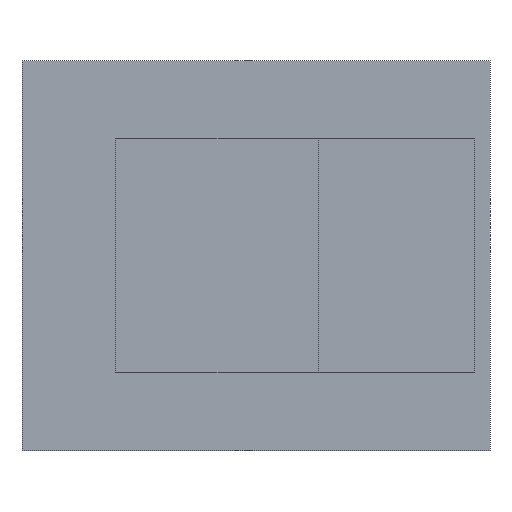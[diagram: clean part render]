
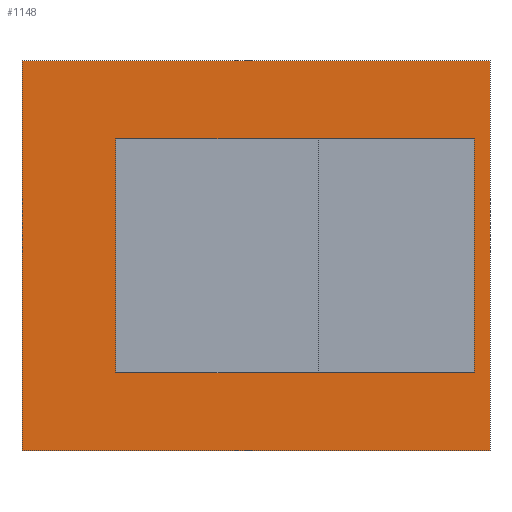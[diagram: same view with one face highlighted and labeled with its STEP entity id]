
A CAD part, front view. The second image highlights one B-rep face of the part: STEP entity #1148.
In plain terms, the highlighted planar face has unit normal (0, -1, 0).
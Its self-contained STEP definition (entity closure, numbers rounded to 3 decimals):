
#851 = PLANE('',#852);
#852 = AXIS2_PLACEMENT_3D('',#853,#854,#855);
#853 = CARTESIAN_POINT('',(-1.5,-103.,38.5));
#854 = DIRECTION('',(1.,0.,-0.));
#855 = DIRECTION('',(0.,0.,1.));
#882 = PLANE('',#883);
#883 = AXIS2_PLACEMENT_3D('',#884,#885,#886);
#884 = CARTESIAN_POINT('',(-1.5,-103.,41.5));
#885 = DIRECTION('',(0.,0.,1.));
#886 = DIRECTION('',(1.,0.,-0.));
#911 = PLANE('',#912);
#912 = AXIS2_PLACEMENT_3D('',#913,#914,#915);
#913 = CARTESIAN_POINT('',(1.5,-103.,38.5));
#914 = DIRECTION('',(1.,0.,-0.));
#915 = DIRECTION('',(0.,0.,1.));
#944 = PLANE('',#945);
#945 = AXIS2_PLACEMENT_3D('',#946,#947,#948);
#946 = CARTESIAN_POINT('',(-1.5,-103.,38.5));
#947 = DIRECTION('',(0.,0.,1.));
#948 = DIRECTION('',(1.,0.,-0.));
#960 = VERTEX_POINT('',#961);
#961 = CARTESIAN_POINT('',(-1.5,-93.,41.5));
#984 = VERTEX_POINT('',#985);
#985 = CARTESIAN_POINT('',(-1.5,-93.,38.5));
#1006 = EDGE_CURVE('',#960,#984,#1007,.T.);
#1007 = SURFACE_CURVE('',#1008,(#1012,#1018),.PCURVE_S1.);
#1008 = LINE('',#1009,#1010);
#1009 = CARTESIAN_POINT('',(-1.5,-93.,38.));
#1010 = VECTOR('',#1011,1.);
#1011 = DIRECTION('',(-0.,0.,-1.));
#1012 = PCURVE('',#851,#1013);
#1013 = DEFINITIONAL_REPRESENTATION('',(#1014),#1017);
#1014 = B_SPLINE_CURVE_WITH_KNOTS('',1,(#1015,#1016),.UNSPECIFIED.,.F.,
  .F.,(2,2),(-3.5,-0.5),.PIECEWISE_BEZIER_KNOTS.);
#1015 = CARTESIAN_POINT('',(3.,-10.));
#1016 = CARTESIAN_POINT('',(0.,-10.));
#1017 = ( GEOMETRIC_REPRESENTATION_CONTEXT(2) 
PARAMETRIC_REPRESENTATION_CONTEXT() REPRESENTATION_CONTEXT('2D SPACE',''
  ) );
#1018 = PCURVE('',#1019,#1024);
#1019 = PLANE('',#1020);
#1020 = AXIS2_PLACEMENT_3D('',#1021,#1022,#1023);
#1021 = CARTESIAN_POINT('',(-3.,-93.,37.5));
#1022 = DIRECTION('',(-0.,1.,0.));
#1023 = DIRECTION('',(0.,0.,1.));
#1024 = DEFINITIONAL_REPRESENTATION('',(#1025),#1028);
#1025 = B_SPLINE_CURVE_WITH_KNOTS('',1,(#1026,#1027),.UNSPECIFIED.,.F.,
  .F.,(2,2),(-3.5,-0.5),.PIECEWISE_BEZIER_KNOTS.);
#1026 = CARTESIAN_POINT('',(4.,1.5));
#1027 = CARTESIAN_POINT('',(1.,1.5));
#1028 = ( GEOMETRIC_REPRESENTATION_CONTEXT(2) 
PARAMETRIC_REPRESENTATION_CONTEXT() REPRESENTATION_CONTEXT('2D SPACE',''
  ) );
#1036 = VERTEX_POINT('',#1037);
#1037 = CARTESIAN_POINT('',(1.5,-93.,41.5));
#1058 = EDGE_CURVE('',#960,#1036,#1059,.T.);
#1059 = SURFACE_CURVE('',#1060,(#1064,#1070),.PCURVE_S1.);
#1060 = LINE('',#1061,#1062);
#1061 = CARTESIAN_POINT('',(-2.25,-93.,41.5));
#1062 = VECTOR('',#1063,1.);
#1063 = DIRECTION('',(1.,0.,-0.));
#1064 = PCURVE('',#882,#1065);
#1065 = DEFINITIONAL_REPRESENTATION('',(#1066),#1069);
#1066 = B_SPLINE_CURVE_WITH_KNOTS('',1,(#1067,#1068),.UNSPECIFIED.,.F.,
  .F.,(2,2),(0.75,3.75),.PIECEWISE_BEZIER_KNOTS.);
#1067 = CARTESIAN_POINT('',(0.,10.));
#1068 = CARTESIAN_POINT('',(3.,10.));
#1069 = ( GEOMETRIC_REPRESENTATION_CONTEXT(2) 
PARAMETRIC_REPRESENTATION_CONTEXT() REPRESENTATION_CONTEXT('2D SPACE',''
  ) );
#1070 = PCURVE('',#1019,#1071);
#1071 = DEFINITIONAL_REPRESENTATION('',(#1072),#1075);
#1072 = B_SPLINE_CURVE_WITH_KNOTS('',1,(#1073,#1074),.UNSPECIFIED.,.F.,
  .F.,(2,2),(0.75,3.75),.PIECEWISE_BEZIER_KNOTS.);
#1073 = CARTESIAN_POINT('',(4.,1.5));
#1074 = CARTESIAN_POINT('',(4.,4.5));
#1075 = ( GEOMETRIC_REPRESENTATION_CONTEXT(2) 
PARAMETRIC_REPRESENTATION_CONTEXT() REPRESENTATION_CONTEXT('2D SPACE',''
  ) );
#1083 = VERTEX_POINT('',#1084);
#1084 = CARTESIAN_POINT('',(1.5,-93.,38.5));
#1105 = EDGE_CURVE('',#1036,#1083,#1106,.T.);
#1106 = SURFACE_CURVE('',#1107,(#1111,#1117),.PCURVE_S1.);
#1107 = LINE('',#1108,#1109);
#1108 = CARTESIAN_POINT('',(1.5,-93.,38.));
#1109 = VECTOR('',#1110,1.);
#1110 = DIRECTION('',(-0.,0.,-1.));
#1111 = PCURVE('',#911,#1112);
#1112 = DEFINITIONAL_REPRESENTATION('',(#1113),#1116);
#1113 = B_SPLINE_CURVE_WITH_KNOTS('',1,(#1114,#1115),.UNSPECIFIED.,.F.,
  .F.,(2,2),(-3.5,-0.5),.PIECEWISE_BEZIER_KNOTS.);
#1114 = CARTESIAN_POINT('',(3.,-10.));
#1115 = CARTESIAN_POINT('',(0.,-10.));
#1116 = ( GEOMETRIC_REPRESENTATION_CONTEXT(2) 
PARAMETRIC_REPRESENTATION_CONTEXT() REPRESENTATION_CONTEXT('2D SPACE',''
  ) );
#1117 = PCURVE('',#1019,#1118);
#1118 = DEFINITIONAL_REPRESENTATION('',(#1119),#1122);
#1119 = B_SPLINE_CURVE_WITH_KNOTS('',1,(#1120,#1121),.UNSPECIFIED.,.F.,
  .F.,(2,2),(-3.5,-0.5),.PIECEWISE_BEZIER_KNOTS.);
#1120 = CARTESIAN_POINT('',(4.,4.5));
#1121 = CARTESIAN_POINT('',(1.,4.5));
#1122 = ( GEOMETRIC_REPRESENTATION_CONTEXT(2) 
PARAMETRIC_REPRESENTATION_CONTEXT() REPRESENTATION_CONTEXT('2D SPACE',''
  ) );
#1130 = EDGE_CURVE('',#984,#1083,#1131,.T.);
#1131 = SURFACE_CURVE('',#1132,(#1136,#1142),.PCURVE_S1.);
#1132 = LINE('',#1133,#1134);
#1133 = CARTESIAN_POINT('',(-2.25,-93.,38.5));
#1134 = VECTOR('',#1135,1.);
#1135 = DIRECTION('',(1.,0.,-0.));
#1136 = PCURVE('',#944,#1137);
#1137 = DEFINITIONAL_REPRESENTATION('',(#1138),#1141);
#1138 = B_SPLINE_CURVE_WITH_KNOTS('',1,(#1139,#1140),.UNSPECIFIED.,.F.,
  .F.,(2,2),(0.75,3.75),.PIECEWISE_BEZIER_KNOTS.);
#1139 = CARTESIAN_POINT('',(0.,10.));
#1140 = CARTESIAN_POINT('',(3.,10.));
#1141 = ( GEOMETRIC_REPRESENTATION_CONTEXT(2) 
PARAMETRIC_REPRESENTATION_CONTEXT() REPRESENTATION_CONTEXT('2D SPACE',''
  ) );
#1142 = PCURVE('',#1019,#1143);
#1143 = DEFINITIONAL_REPRESENTATION('',(#1144),#1147);
#1144 = B_SPLINE_CURVE_WITH_KNOTS('',1,(#1145,#1146),.UNSPECIFIED.,.F.,
  .F.,(2,2),(0.75,3.75),.PIECEWISE_BEZIER_KNOTS.);
#1145 = CARTESIAN_POINT('',(1.,1.5));
#1146 = CARTESIAN_POINT('',(1.,4.5));
#1147 = ( GEOMETRIC_REPRESENTATION_CONTEXT(2) 
PARAMETRIC_REPRESENTATION_CONTEXT() REPRESENTATION_CONTEXT('2D SPACE',''
  ) );
#1148 = ADVANCED_FACE('',(#1149,#1263),#1019,.F.);
#1149 = FACE_BOUND('',#1150,.F.);
#1150 = EDGE_LOOP('',(#1151,#1181,#1209,#1237));
#1151 = ORIENTED_EDGE('',*,*,#1152,.F.);
#1152 = EDGE_CURVE('',#1153,#1155,#1157,.T.);
#1153 = VERTEX_POINT('',#1154);
#1154 = CARTESIAN_POINT('',(-3.,-93.,37.5));
#1155 = VERTEX_POINT('',#1156);
#1156 = CARTESIAN_POINT('',(3.,-93.,37.5));
#1157 = SURFACE_CURVE('',#1158,(#1162,#1169),.PCURVE_S1.);
#1158 = LINE('',#1159,#1160);
#1159 = CARTESIAN_POINT('',(-3.,-93.,37.5));
#1160 = VECTOR('',#1161,1.);
#1161 = DIRECTION('',(1.,0.,-0.));
#1162 = PCURVE('',#1019,#1163);
#1163 = DEFINITIONAL_REPRESENTATION('',(#1164),#1168);
#1164 = LINE('',#1165,#1166);
#1165 = CARTESIAN_POINT('',(0.,0.));
#1166 = VECTOR('',#1167,1.);
#1167 = DIRECTION('',(0.,1.));
#1168 = ( GEOMETRIC_REPRESENTATION_CONTEXT(2) 
PARAMETRIC_REPRESENTATION_CONTEXT() REPRESENTATION_CONTEXT('2D SPACE',''
  ) );
#1169 = PCURVE('',#1170,#1175);
#1170 = PLANE('',#1171);
#1171 = AXIS2_PLACEMENT_3D('',#1172,#1173,#1174);
#1172 = CARTESIAN_POINT('',(-3.,-93.,37.5));
#1173 = DIRECTION('',(0.,0.,1.));
#1174 = DIRECTION('',(1.,0.,-0.));
#1175 = DEFINITIONAL_REPRESENTATION('',(#1176),#1180);
#1176 = LINE('',#1177,#1178);
#1177 = CARTESIAN_POINT('',(0.,0.));
#1178 = VECTOR('',#1179,1.);
#1179 = DIRECTION('',(1.,0.));
#1180 = ( GEOMETRIC_REPRESENTATION_CONTEXT(2) 
PARAMETRIC_REPRESENTATION_CONTEXT() REPRESENTATION_CONTEXT('2D SPACE',''
  ) );
#1181 = ORIENTED_EDGE('',*,*,#1182,.T.);
#1182 = EDGE_CURVE('',#1153,#1183,#1185,.T.);
#1183 = VERTEX_POINT('',#1184);
#1184 = CARTESIAN_POINT('',(-3.,-93.,42.5));
#1185 = SURFACE_CURVE('',#1186,(#1190,#1197),.PCURVE_S1.);
#1186 = LINE('',#1187,#1188);
#1187 = CARTESIAN_POINT('',(-3.,-93.,37.5));
#1188 = VECTOR('',#1189,1.);
#1189 = DIRECTION('',(0.,0.,1.));
#1190 = PCURVE('',#1019,#1191);
#1191 = DEFINITIONAL_REPRESENTATION('',(#1192),#1196);
#1192 = LINE('',#1193,#1194);
#1193 = CARTESIAN_POINT('',(0.,0.));
#1194 = VECTOR('',#1195,1.);
#1195 = DIRECTION('',(1.,0.));
#1196 = ( GEOMETRIC_REPRESENTATION_CONTEXT(2) 
PARAMETRIC_REPRESENTATION_CONTEXT() REPRESENTATION_CONTEXT('2D SPACE',''
  ) );
#1197 = PCURVE('',#1198,#1203);
#1198 = PLANE('',#1199);
#1199 = AXIS2_PLACEMENT_3D('',#1200,#1201,#1202);
#1200 = CARTESIAN_POINT('',(-3.,-93.,37.5));
#1201 = DIRECTION('',(1.,0.,-0.));
#1202 = DIRECTION('',(0.,0.,1.));
#1203 = DEFINITIONAL_REPRESENTATION('',(#1204),#1208);
#1204 = LINE('',#1205,#1206);
#1205 = CARTESIAN_POINT('',(0.,0.));
#1206 = VECTOR('',#1207,1.);
#1207 = DIRECTION('',(1.,0.));
#1208 = ( GEOMETRIC_REPRESENTATION_CONTEXT(2) 
PARAMETRIC_REPRESENTATION_CONTEXT() REPRESENTATION_CONTEXT('2D SPACE',''
  ) );
#1209 = ORIENTED_EDGE('',*,*,#1210,.T.);
#1210 = EDGE_CURVE('',#1183,#1211,#1213,.T.);
#1211 = VERTEX_POINT('',#1212);
#1212 = CARTESIAN_POINT('',(3.,-93.,42.5));
#1213 = SURFACE_CURVE('',#1214,(#1218,#1225),.PCURVE_S1.);
#1214 = LINE('',#1215,#1216);
#1215 = CARTESIAN_POINT('',(-3.,-93.,42.5));
#1216 = VECTOR('',#1217,1.);
#1217 = DIRECTION('',(1.,0.,-0.));
#1218 = PCURVE('',#1019,#1219);
#1219 = DEFINITIONAL_REPRESENTATION('',(#1220),#1224);
#1220 = LINE('',#1221,#1222);
#1221 = CARTESIAN_POINT('',(5.,0.));
#1222 = VECTOR('',#1223,1.);
#1223 = DIRECTION('',(0.,1.));
#1224 = ( GEOMETRIC_REPRESENTATION_CONTEXT(2) 
PARAMETRIC_REPRESENTATION_CONTEXT() REPRESENTATION_CONTEXT('2D SPACE',''
  ) );
#1225 = PCURVE('',#1226,#1231);
#1226 = PLANE('',#1227);
#1227 = AXIS2_PLACEMENT_3D('',#1228,#1229,#1230);
#1228 = CARTESIAN_POINT('',(-3.,-93.,42.5));
#1229 = DIRECTION('',(0.,0.,1.));
#1230 = DIRECTION('',(1.,0.,-0.));
#1231 = DEFINITIONAL_REPRESENTATION('',(#1232),#1236);
#1232 = LINE('',#1233,#1234);
#1233 = CARTESIAN_POINT('',(0.,0.));
#1234 = VECTOR('',#1235,1.);
#1235 = DIRECTION('',(1.,0.));
#1236 = ( GEOMETRIC_REPRESENTATION_CONTEXT(2) 
PARAMETRIC_REPRESENTATION_CONTEXT() REPRESENTATION_CONTEXT('2D SPACE',''
  ) );
#1237 = ORIENTED_EDGE('',*,*,#1238,.F.);
#1238 = EDGE_CURVE('',#1155,#1211,#1239,.T.);
#1239 = SURFACE_CURVE('',#1240,(#1244,#1251),.PCURVE_S1.);
#1240 = LINE('',#1241,#1242);
#1241 = CARTESIAN_POINT('',(3.,-93.,37.5));
#1242 = VECTOR('',#1243,1.);
#1243 = DIRECTION('',(0.,0.,1.));
#1244 = PCURVE('',#1019,#1245);
#1245 = DEFINITIONAL_REPRESENTATION('',(#1246),#1250);
#1246 = LINE('',#1247,#1248);
#1247 = CARTESIAN_POINT('',(0.,6.));
#1248 = VECTOR('',#1249,1.);
#1249 = DIRECTION('',(1.,0.));
#1250 = ( GEOMETRIC_REPRESENTATION_CONTEXT(2) 
PARAMETRIC_REPRESENTATION_CONTEXT() REPRESENTATION_CONTEXT('2D SPACE',''
  ) );
#1251 = PCURVE('',#1252,#1257);
#1252 = PLANE('',#1253);
#1253 = AXIS2_PLACEMENT_3D('',#1254,#1255,#1256);
#1254 = CARTESIAN_POINT('',(3.,-93.,37.5));
#1255 = DIRECTION('',(1.,0.,-0.));
#1256 = DIRECTION('',(0.,0.,1.));
#1257 = DEFINITIONAL_REPRESENTATION('',(#1258),#1262);
#1258 = LINE('',#1259,#1260);
#1259 = CARTESIAN_POINT('',(0.,0.));
#1260 = VECTOR('',#1261,1.);
#1261 = DIRECTION('',(1.,0.));
#1262 = ( GEOMETRIC_REPRESENTATION_CONTEXT(2) 
PARAMETRIC_REPRESENTATION_CONTEXT() REPRESENTATION_CONTEXT('2D SPACE',''
  ) );
#1263 = FACE_BOUND('',#1264,.F.);
#1264 = EDGE_LOOP('',(#1265,#1266,#1267,#1268));
#1265 = ORIENTED_EDGE('',*,*,#1058,.F.);
#1266 = ORIENTED_EDGE('',*,*,#1006,.T.);
#1267 = ORIENTED_EDGE('',*,*,#1130,.T.);
#1268 = ORIENTED_EDGE('',*,*,#1105,.F.);
